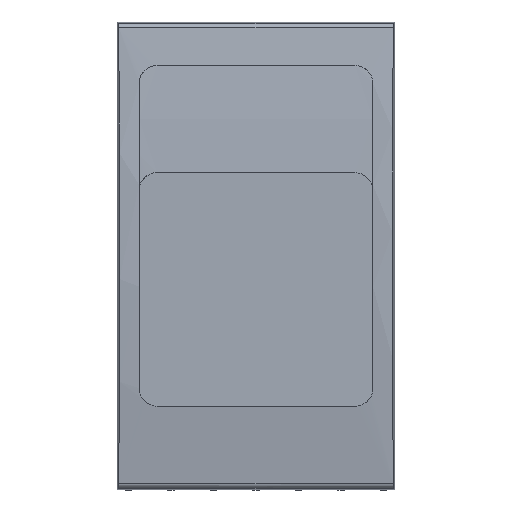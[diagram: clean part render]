
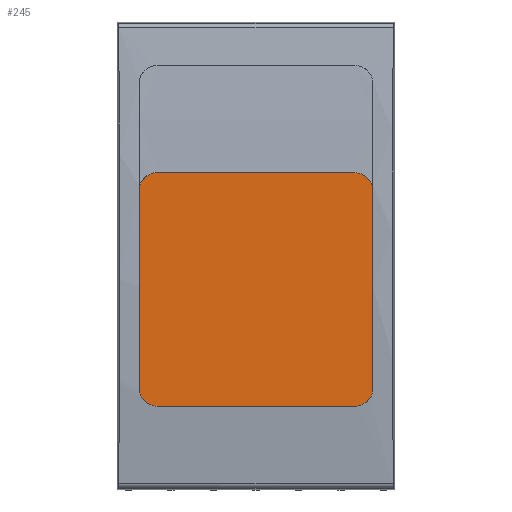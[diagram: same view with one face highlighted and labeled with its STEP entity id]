
A CAD part, top view. The second image highlights one B-rep face of the part: STEP entity #245.
In plain terms, the highlighted planar face has unit normal (0, 0, 1).
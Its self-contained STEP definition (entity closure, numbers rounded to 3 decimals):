
#245 = ADVANCED_FACE( '', ( #958 ), #959, .T. );
#958 = FACE_OUTER_BOUND( '', #2123, .T. );
#959 = PLANE( '', #2124 );
#2123 = EDGE_LOOP( '', ( #4187, #4188, #4189, #4190, #4191, #4192, #4193, #4194 ) );
#2124 = AXIS2_PLACEMENT_3D( '', #4195, #4196, #4197 );
#4187 = ORIENTED_EDGE( '', *, *, #7601, .T. );
#4188 = ORIENTED_EDGE( '', *, *, #7602, .T. );
#4189 = ORIENTED_EDGE( '', *, *, #7603, .T. );
#4190 = ORIENTED_EDGE( '', *, *, #7604, .T. );
#4191 = ORIENTED_EDGE( '', *, *, #7605, .T. );
#4192 = ORIENTED_EDGE( '', *, *, #7606, .T. );
#4193 = ORIENTED_EDGE( '', *, *, #7607, .T. );
#4194 = ORIENTED_EDGE( '', *, *, #7608, .T. );
#4195 = CARTESIAN_POINT( '', ( -30.25, -40.5, 32.276 ) );
#4196 = DIRECTION( '', ( 0., 0., 1. ) );
#4197 = DIRECTION( '', ( 1., 0., 0. ) );
#7601 = EDGE_CURVE( '', #9583, #9584, #9585, .T. );
#7602 = EDGE_CURVE( '', #9584, #9586, #9587, .T. );
#7603 = EDGE_CURVE( '', #9586, #9588, #9589, .T. );
#7604 = EDGE_CURVE( '', #9588, #9590, #9591, .T. );
#7605 = EDGE_CURVE( '', #9590, #9592, #9593, .T. );
#7606 = EDGE_CURVE( '', #9592, #9594, #9595, .T. );
#7607 = EDGE_CURVE( '', #9594, #9596, #9597, .T. );
#7608 = EDGE_CURVE( '', #9596, #9583, #9598, .T. );
#9583 = VERTEX_POINT( '', #12352 );
#9584 = VERTEX_POINT( '', #12353 );
#9585 = LINE( '', #12354, #12355 );
#9586 = VERTEX_POINT( '', #12356 );
#9587 = CIRCLE( '', #12357, 5.5 );
#9588 = VERTEX_POINT( '', #12358 );
#9589 = LINE( '', #12359, #12360 );
#9590 = VERTEX_POINT( '', #12361 );
#9591 = CIRCLE( '', #12362, 5.5 );
#9592 = VERTEX_POINT( '', #12363 );
#9593 = LINE( '', #12364, #12365 );
#9594 = VERTEX_POINT( '', #12366 );
#9595 = CIRCLE( '', #12367, 5.5 );
#9596 = VERTEX_POINT( '', #12368 );
#9597 = LINE( '', #12369, #12370 );
#9598 = CIRCLE( '', #12371, 5.5 );
#12352 = CARTESIAN_POINT( '', ( -35.75, 19.9, 32.276 ) );
#12353 = CARTESIAN_POINT( '', ( -35.75, -40.5, 32.276 ) );
#12354 = CARTESIAN_POINT( '', ( -35.75, 19.9, 32.276 ) );
#12355 = VECTOR( '', #15250, 1000. );
#12356 = CARTESIAN_POINT( '', ( -30.25, -46., 32.276 ) );
#12357 = AXIS2_PLACEMENT_3D( '', #15251, #15252, #15253 );
#12358 = CARTESIAN_POINT( '', ( 30.25, -46., 32.276 ) );
#12359 = CARTESIAN_POINT( '', ( -30.25, -46., 32.276 ) );
#12360 = VECTOR( '', #15254, 1000. );
#12361 = CARTESIAN_POINT( '', ( 35.75, -40.5, 32.276 ) );
#12362 = AXIS2_PLACEMENT_3D( '', #15255, #15256, #15257 );
#12363 = CARTESIAN_POINT( '', ( 35.75, 19.9, 32.276 ) );
#12364 = CARTESIAN_POINT( '', ( 35.75, -40.5, 32.276 ) );
#12365 = VECTOR( '', #15258, 1000. );
#12366 = CARTESIAN_POINT( '', ( 30.25, 25.4, 32.276 ) );
#12367 = AXIS2_PLACEMENT_3D( '', #15259, #15260, #15261 );
#12368 = CARTESIAN_POINT( '', ( -30.25, 25.4, 32.276 ) );
#12369 = CARTESIAN_POINT( '', ( 30.25, 25.4, 32.276 ) );
#12370 = VECTOR( '', #15262, 1000. );
#12371 = AXIS2_PLACEMENT_3D( '', #15263, #15264, #15265 );
#15250 = DIRECTION( '', ( 0., -1., 0. ) );
#15251 = CARTESIAN_POINT( '', ( -30.25, -40.5, 32.276 ) );
#15252 = DIRECTION( '', ( 0., 0., 1. ) );
#15253 = DIRECTION( '', ( 1., 0., 0. ) );
#15254 = DIRECTION( '', ( 1., 0., 0. ) );
#15255 = CARTESIAN_POINT( '', ( 30.25, -40.5, 32.276 ) );
#15256 = DIRECTION( '', ( 0., 0., 1. ) );
#15257 = DIRECTION( '', ( 1., 0., 0. ) );
#15258 = DIRECTION( '', ( 0., 1., 0. ) );
#15259 = CARTESIAN_POINT( '', ( 30.25, 19.9, 32.276 ) );
#15260 = DIRECTION( '', ( 0., 0., 1. ) );
#15261 = DIRECTION( '', ( 1., 0., 0. ) );
#15262 = DIRECTION( '', ( -1., 0., 0. ) );
#15263 = CARTESIAN_POINT( '', ( -30.25, 19.9, 32.276 ) );
#15264 = DIRECTION( '', ( 0., 0., 1. ) );
#15265 = DIRECTION( '', ( 1., 0., 0. ) );
